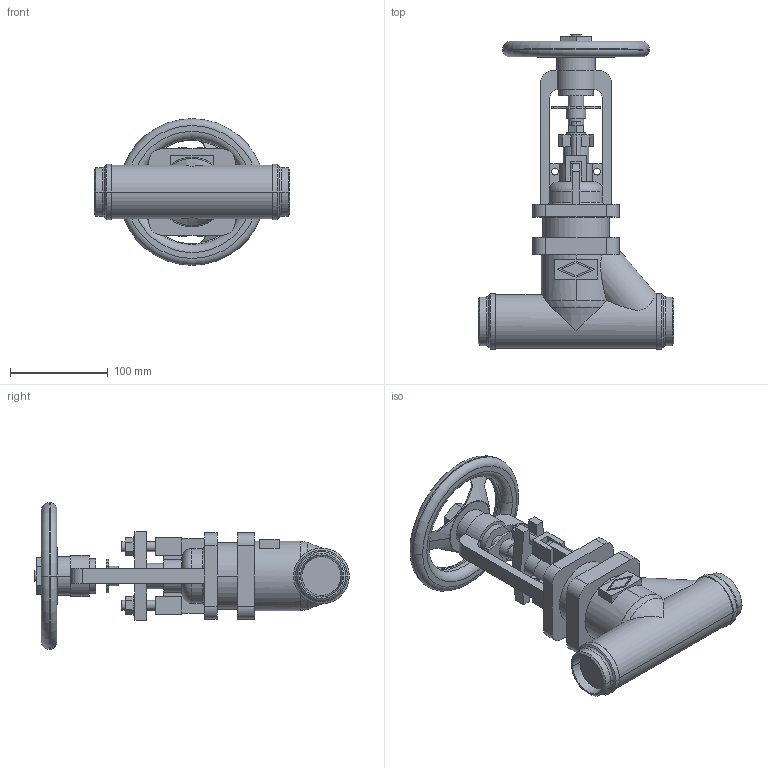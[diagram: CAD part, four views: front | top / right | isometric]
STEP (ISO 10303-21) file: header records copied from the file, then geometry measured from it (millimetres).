
FILE_DESCRIPTION(('OneSpaceDesigner STEP Export'),'2;1');
FILE_NAME('c000004306.stp','2010-05-06T 8:55:58',(''),(''),'OneSpace Designer STEP processor for AP214 (Solid Model)','OneSpace Modeling 15.50B 03-Nov-2007 (C) CoCreate Software GmbH','');
FILE_SCHEMA(('AUTOMOTIVE_DESIGN { 1 0 10303 214 1 1 1 1 }'));
Length unit declared in the file: millimetre
Products named in the file (1): 1
Bounding box: 200 x 321.9 x 150 mm (x, y, z)
Volume: 1397952.3 mm3; surface area: 170775.8 mm2
Topology: 1 solids, 1 shells, 281 faces, 750 edges, 492 vertices
Faces by surface type: plane 139, cylinder 98, torus 24, cone 20
Entity records: 11338 total; most frequent: CARTESIAN_POINT 2394, ORIENTED_EDGE 1492, DIRECTION 1260, EDGE_CURVE 746, VERTEX_POINT 488, AXIS2_PLACEMENT_3D 428, VECTOR 404, LINE 404
